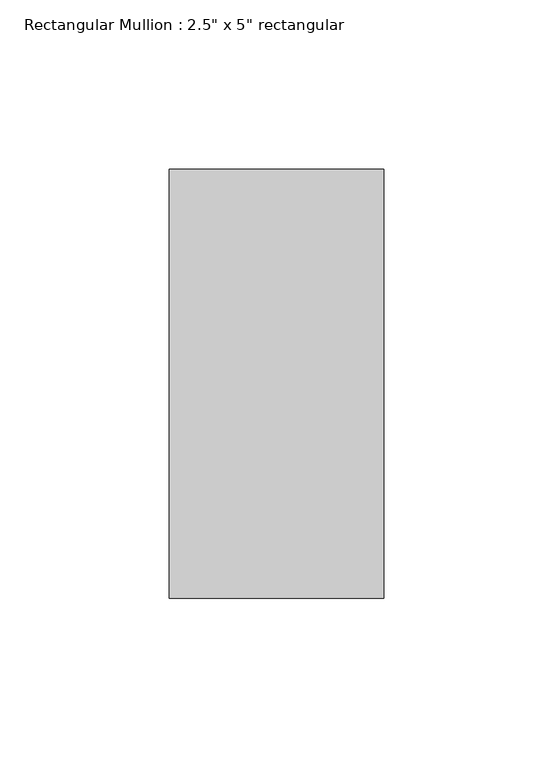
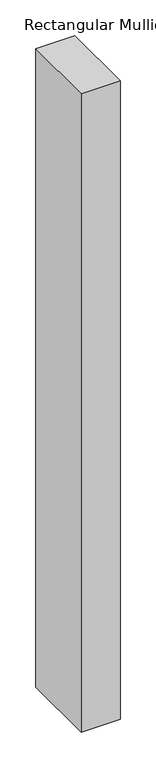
"""IFC4 building model written with IfcOpenShell, lengths in millimetres: member geometry."""

from ifc_helpers import new_model, si_unit, frame, origin, place, context, project, spatial, polyline, outline, extrude, source, transform, mapped, element, save


def member_af4a1133(model_context):
    return source(origin(), model_context, "Body", "SweptSolid", [
        extrude(outline(polyline([(0.0, 76.2), (0.0, -50.8), (-63.5, -50.8), (-63.5, 76.2), (0.0, 76.2)])), frame((0.0, 0.0, -1092.2), z_axis=(0.0, 0.0, 1.0), x_axis=(1.0, 0.0, 0.0)), (0.0, 0.0, 1.0), 1092.2),
    ])


if __name__ == "__main__":
    model = new_model("IFC4")
    model_context = context("Model", 3, world=origin())
    ifc_project = project(units=[si_unit("LENGTHUNIT", "METRE", prefix="MILLI")], contexts=[model_context])
    site = spatial("IfcSite", under=ifc_project)
    building = spatial("IfcBuilding", under=site)
    placement = place(None, origin())
    member_shape = member_af4a1133(model_context)
    element("IfcMember", 1, ObjectType="Rectangular Mullion : 2.5\" x 5\" rectangular", at=placement, inside=building, context=model_context, shape_type="MappedRepresentation", body=[
        mapped(member_shape, transform((0.0, 0.0, 0.0), x_axis=(1.0, 0.0, 0.0), y_axis=(0.0, 1.0, 0.0), z_axis=(0.0, 0.0, 1.0))),
    ])
    save(model, "model.ifc")
